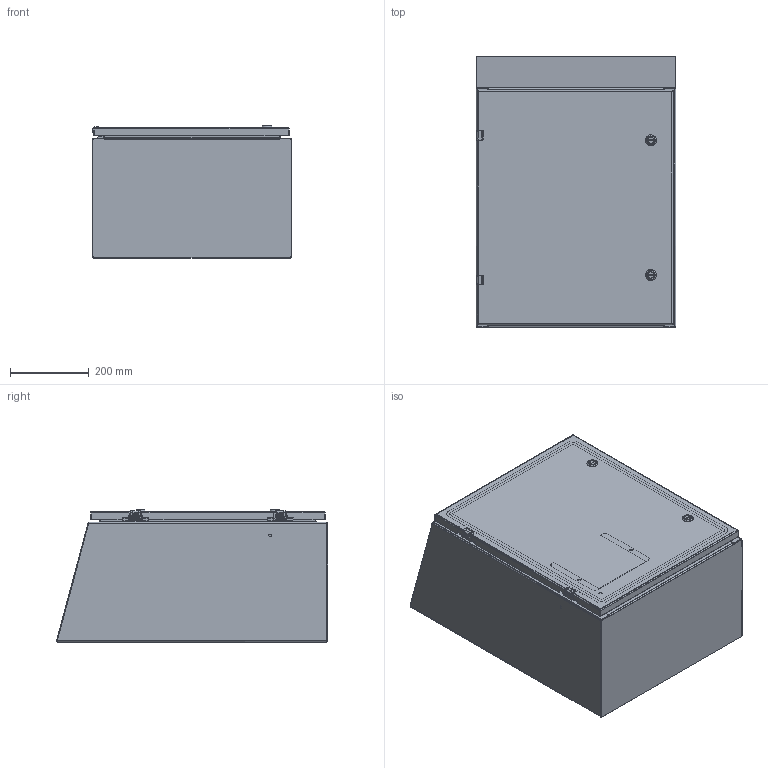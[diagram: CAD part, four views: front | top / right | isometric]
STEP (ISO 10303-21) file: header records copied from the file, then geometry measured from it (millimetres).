
FILE_DESCRIPTION((''),'2;1');
FILE_NAME('MODEL-301_ASM','2021-05-14T10:47:57',('mikek'),('SAGINAW CONTROL & ENGINEERING'),'CREO PARAMETRIC BY PTC INC, 2017260','CREO PARAMETRIC BY PTC INC, 2017260','');
FILE_SCHEMA(('AUTOMOTIVE_DESIGN { 1 0 10303 214 1 1 1 1 }'));
Length unit declared in the file: inch
Products named in the file (29): MODEL-301-BDY; MODEL-301-TP; MODEL-301-BTM; MODEL-301-DR; 100837; 100882; 111541; 100794_SHAFT; 100794_INSERT; 100794_CAM; 100794_NUT; 100794_SCREW; 100794_ASM; MODEL-301-DOOR-GASKET; 126392; 126397; 126392_ASM; 126395; 102483; 101226; 101389; 102140; MODEL-301-DOOR-ASSY_ASM; 101653; 122191; SUBPANEL; 100904; SUBPANEL-SUBASSEMBLY_ASM; MODEL-301_ASM
Assembly tree (49 placements, depth 4):
  MODEL-301_ASM
    MODEL-301-BDY
    MODEL-301-TP
    MODEL-301-BTM
    MODEL-301-DOOR-ASSY_ASM
      MODEL-301-DR
      100837  x3
      100882  x2
      111541
      100794_ASM  x2
        100794_SHAFT
        100794_INSERT
        100794_CAM
        100794_NUT
        100794_SCREW
      MODEL-301-DOOR-GASKET
      126392_ASM  x2
        126392
        126397
      126395  x2
      102483  x6
      101226  x2
      101389  x2
      102140  x2
    100837
    101653  x4
    122191
    SUBPANEL-SUBASSEMBLY_ASM
      SUBPANEL
      100904  x4
Bounding box: 508 x 690.31 x 336.05 mm (x, y, z)
Volume: 3960058.2 mm3; surface area: 3702724.9 mm2
Topology: 49 solids, 49 shells, 3087 faces, 7800 edges, 4878 vertices
Faces by surface type: plane 1346, cylinder 863, bspline 466, torus 240, cone 112, sphere 60
Entity records: 85232 total; most frequent: CARTESIAN_POINT 23536, ORIENTED_EDGE 8652, DIRECTION 8115, PRESENTATION_STYLE_ASSIGNMENT 4523, EDGE_CURVE 4326, STYLED_ITEM 4248, CURVE_STYLE 4164, AXIS2_PLACEMENT_3D 2954
